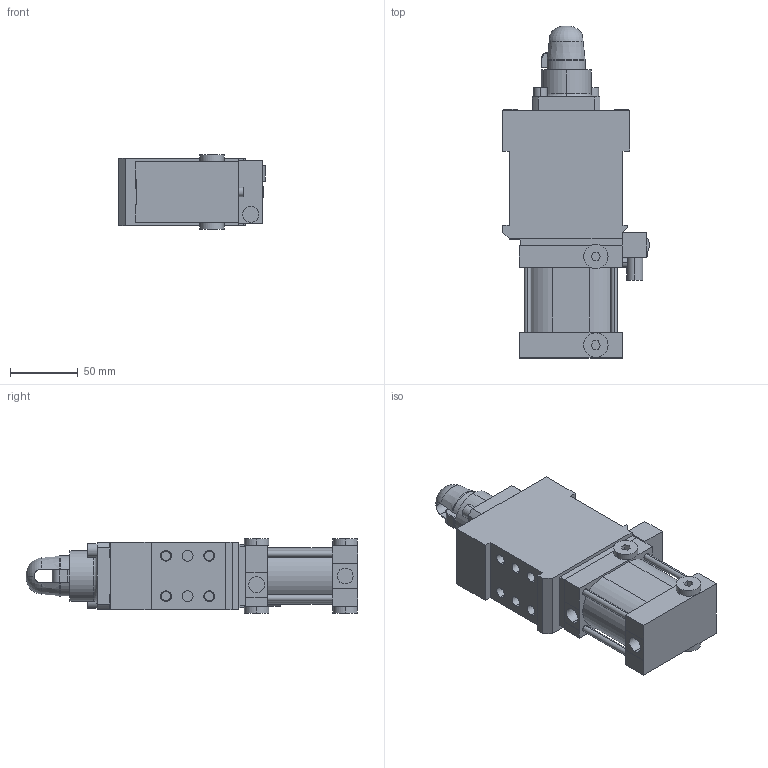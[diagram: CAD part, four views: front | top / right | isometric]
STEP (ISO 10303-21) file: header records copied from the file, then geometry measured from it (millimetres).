
FILE_DESCRIPTION (( 'STEP AP203' ), '1' );
FILE_NAME ('dca50ri-08389std.STEP', '2017-02-13T15:01:22', ( '' ), ( '' ), 'SwSTEP 2.0', 'SolidWorks 2016', '' );
FILE_SCHEMA (( 'CONFIG_CONTROL_DESIGN' ));
Length unit declared in the file: millimetre
Products named in the file (1): dca50ri-08389std
Bounding box: 108.6 x 245.5 x 55 mm (x, y, z)
Volume: 747878.4 mm3; surface area: 121779.7 mm2
Topology: 11 solids, 11 shells, 430 faces, 1003 edges, 661 vertices
Faces by surface type: plane 254, cylinder 156, cone 12, torus 8
Entity records: 12515 total; most frequent: CARTESIAN_POINT 2317, DIRECTION 2158, ORIENTED_EDGE 2006, EDGE_CURVE 1003, AXIS2_PLACEMENT_3D 758, VERTEX_POINT 661, LINE 642, VECTOR 642
